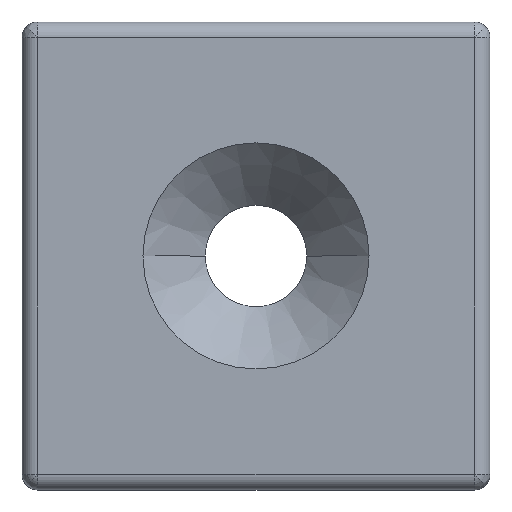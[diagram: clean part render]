
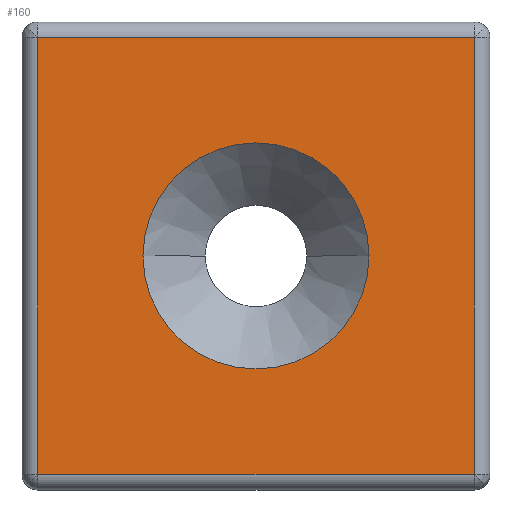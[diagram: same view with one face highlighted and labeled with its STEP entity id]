
A CAD part, top view. The second image highlights one B-rep face of the part: STEP entity #160.
In plain terms, the highlighted planar face has unit normal (0, 0, 1).
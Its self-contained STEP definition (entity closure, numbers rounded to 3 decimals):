
#31 = VERTEX_POINT ( 'NONE', #376 ) ;
#35 = LINE ( 'NONE', #517, #906 ) ;
#62 = VECTOR ( 'NONE', #988, 1000. ) ;
#76 = CIRCLE ( 'NONE', #566, 7.25 ) ;
#122 = DIRECTION ( 'NONE',  ( 0., 0., 1. ) ) ;
#125 = CARTESIAN_POINT ( 'NONE',  ( 14., 0., 5. ) ) ;
#160 = ADVANCED_FACE ( 'NONE', ( #929, #1311 ), #546, .T. ) ;
#161 = VERTEX_POINT ( 'NONE', #449 ) ;
#171 = CARTESIAN_POINT ( 'NONE',  ( 0., -14., 5. ) ) ;
#227 = VECTOR ( 'NONE', #747, 1000. ) ;
#243 = EDGE_CURVE ( 'NONE', #731, #941, #1287, .T. ) ;
#245 = ORIENTED_EDGE ( 'NONE', *, *, #995, .T. ) ;
#292 = ORIENTED_EDGE ( 'NONE', *, *, #1233, .T. ) ;
#296 = CARTESIAN_POINT ( 'NONE',  ( 0., 0., 5. ) ) ;
#319 = ORIENTED_EDGE ( 'NONE', *, *, #846, .T. ) ;
#332 = EDGE_LOOP ( 'NONE', ( #292, #728, #928, #319 ) ) ;
#364 = CARTESIAN_POINT ( 'NONE',  ( -14., -14., 5. ) ) ;
#376 = CARTESIAN_POINT ( 'NONE',  ( -14., 14., 5. ) ) ;
#378 = VECTOR ( 'NONE', #1270, 1000. ) ;
#418 = DIRECTION ( 'NONE',  ( -1., 0., 0. ) ) ;
#426 = EDGE_CURVE ( 'NONE', #31, #1031, #840, .T. ) ;
#449 = CARTESIAN_POINT ( 'NONE',  ( 14., 14., 5. ) ) ;
#517 = CARTESIAN_POINT ( 'NONE',  ( 0., 14., 5. ) ) ;
#518 = EDGE_CURVE ( 'NONE', #1031, #693, #842, .T. ) ;
#524 = CARTESIAN_POINT ( 'NONE',  ( -7.25, 0., 5. ) ) ;
#546 = PLANE ( 'NONE',  #730 ) ;
#566 = AXIS2_PLACEMENT_3D ( 'NONE', #960, #864, #767 ) ;
#612 = CARTESIAN_POINT ( 'NONE',  ( 14., -14., 5. ) ) ;
#620 = EDGE_LOOP ( 'NONE', ( #830, #245 ) ) ;
#693 = VERTEX_POINT ( 'NONE', #612 ) ;
#728 = ORIENTED_EDGE ( 'NONE', *, *, #426, .T. ) ;
#730 = AXIS2_PLACEMENT_3D ( 'NONE', #1047, #122, #744 ) ;
#731 = VERTEX_POINT ( 'NONE', #524 ) ;
#744 = DIRECTION ( 'NONE',  ( 1., 0., 0. ) ) ;
#747 = DIRECTION ( 'NONE',  ( 0., 1., 0. ) ) ;
#767 = DIRECTION ( 'NONE',  ( 1., 0., 0. ) ) ;
#793 = CARTESIAN_POINT ( 'NONE',  ( 7.25, 0., 5. ) ) ;
#830 = ORIENTED_EDGE ( 'NONE', *, *, #243, .T. ) ;
#840 = LINE ( 'NONE', #895, #378 ) ;
#842 = LINE ( 'NONE', #171, #62 ) ;
#846 = EDGE_CURVE ( 'NONE', #693, #161, #1227, .T. ) ;
#864 = DIRECTION ( 'NONE',  ( 0., 0., -1. ) ) ;
#895 = CARTESIAN_POINT ( 'NONE',  ( -14., 0., 5. ) ) ;
#899 = DIRECTION ( 'NONE',  ( 0., 0., -1. ) ) ;
#906 = VECTOR ( 'NONE', #418, 1000. ) ;
#928 = ORIENTED_EDGE ( 'NONE', *, *, #518, .T. ) ;
#929 = FACE_BOUND ( 'NONE', #620, .T. ) ;
#931 = AXIS2_PLACEMENT_3D ( 'NONE', #296, #899, #1103 ) ;
#941 = VERTEX_POINT ( 'NONE', #793 ) ;
#960 = CARTESIAN_POINT ( 'NONE',  ( 0., 0., 5. ) ) ;
#988 = DIRECTION ( 'NONE',  ( 1., 0., 0. ) ) ;
#995 = EDGE_CURVE ( 'NONE', #941, #731, #76, .T. ) ;
#1031 = VERTEX_POINT ( 'NONE', #364 ) ;
#1047 = CARTESIAN_POINT ( 'NONE',  ( 0., 0., 5. ) ) ;
#1103 = DIRECTION ( 'NONE',  ( 1., 0., 0. ) ) ;
#1227 = LINE ( 'NONE', #125, #227 ) ;
#1233 = EDGE_CURVE ( 'NONE', #161, #31, #35, .T. ) ;
#1270 = DIRECTION ( 'NONE',  ( 0., -1., 0. ) ) ;
#1287 = CIRCLE ( 'NONE', #931, 7.25 ) ;
#1311 = FACE_OUTER_BOUND ( 'NONE', #332, .T. ) ;
